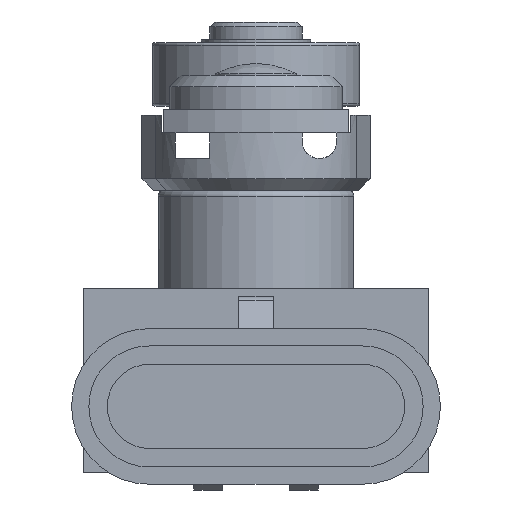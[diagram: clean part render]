
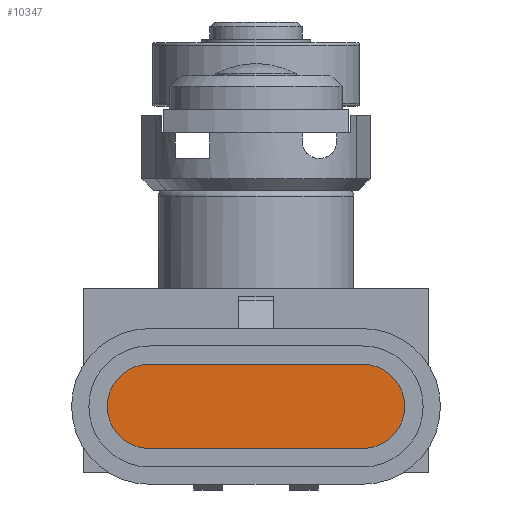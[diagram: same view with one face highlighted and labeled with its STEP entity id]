
A CAD part, front view. The second image highlights one B-rep face of the part: STEP entity #10347.
In plain terms, the highlighted planar face has unit normal (0, -1, 0) as drawn and (0, 0, -1) by its records, which use the part's own axes.
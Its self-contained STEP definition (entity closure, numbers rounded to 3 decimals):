
#143=LINE('',#15445,#1211);
#147=LINE('',#15457,#1215);
#1211=VECTOR('',#12251,18.5);
#1215=VECTOR('',#12263,18.5);
#2206=PLANE('',#10975);
#2597=FACE_OUTER_BOUND('',#3176,.T.);
#3176=EDGE_LOOP('',(#7113,#7114,#7115,#7116));
#3764=CIRCLE('',#10970,3.65);
#3766=CIRCLE('',#10974,3.65);
#4320=VERTEX_POINT('',#15442);
#4321=VERTEX_POINT('',#15444);
#4323=VERTEX_POINT('',#15450);
#4325=VERTEX_POINT('',#15456);
#5411=EDGE_CURVE('',#4321,#4320,#143,.T.);
#5414=EDGE_CURVE('',#4323,#4321,#3764,.T.);
#5417=EDGE_CURVE('',#4325,#4323,#147,.T.);
#5420=EDGE_CURVE('',#4320,#4325,#3766,.T.);
#7113=ORIENTED_EDGE('',*,*,#5414,.T.);
#7114=ORIENTED_EDGE('',*,*,#5411,.T.);
#7115=ORIENTED_EDGE('',*,*,#5420,.T.);
#7116=ORIENTED_EDGE('',*,*,#5417,.T.);
#10347=ADVANCED_FACE('',(#2597),#2206,.F.);
#10970=AXIS2_PLACEMENT_3D('',#15451,#12257,#12258);
#10974=AXIS2_PLACEMENT_3D('',#15461,#12269,#12270);
#10975=AXIS2_PLACEMENT_3D('',#15462,#12271,#12272);
#12251=DIRECTION('',(1.,0.,0.));
#12257=DIRECTION('center_axis',(0.,0.,-1.));
#12258=DIRECTION('ref_axis',(1.,0.,0.));
#12263=DIRECTION('',(-1.,0.,0.));
#12269=DIRECTION('center_axis',(0.,0.,-1.));
#12270=DIRECTION('ref_axis',(1.,0.,0.));
#12271=DIRECTION('center_axis',(0.,0.,1.));
#12272=DIRECTION('ref_axis',(1.,0.,0.));
#15442=CARTESIAN_POINT('',(9.25,-2.1,-60.5));
#15444=CARTESIAN_POINT('',(-9.25,-2.1,-60.5));
#15445=CARTESIAN_POINT('',(-9.25,-2.1,-60.5));
#15450=CARTESIAN_POINT('',(-9.25,-9.4,-60.5));
#15451=CARTESIAN_POINT('Origin',(-9.25,-5.75,-60.5));
#15456=CARTESIAN_POINT('',(9.25,-9.4,-60.5));
#15457=CARTESIAN_POINT('',(9.25,-9.4,-60.5));
#15461=CARTESIAN_POINT('Origin',(9.25,-5.75,-60.5));
#15462=CARTESIAN_POINT('Origin',(-9.25,-5.75,-60.5));
